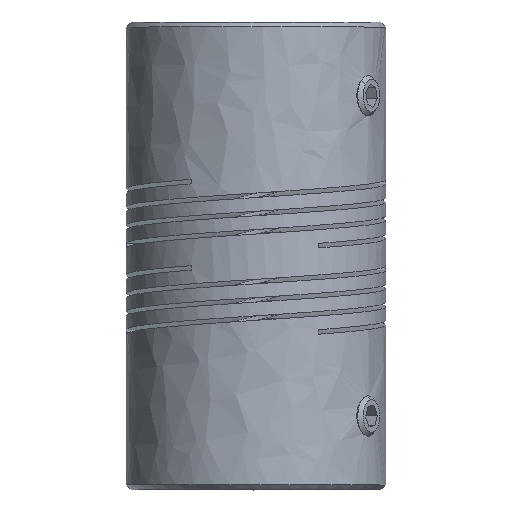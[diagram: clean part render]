
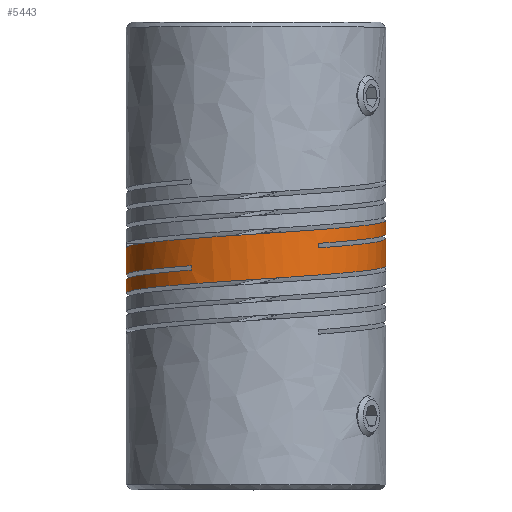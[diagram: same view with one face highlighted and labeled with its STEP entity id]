
A CAD part, top view. The second image highlights one B-rep face of the part: STEP entity #5443.
In plain terms, the highlighted free-form (B-spline) face has degree [1, 3] with [2, 13] control points.
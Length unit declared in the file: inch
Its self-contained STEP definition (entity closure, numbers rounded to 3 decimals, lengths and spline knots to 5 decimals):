
#649=DIRECTION('',(0.,1.,0.));
#650=VECTOR('',#649,0.02165);
#651=CARTESIAN_POINT('',(-0.67862,-0.17203,
0.5983));
#652=LINE('',#651,#650);
#1106=DIRECTION('',(0.,-1.,0.));
#1107=VECTOR('',#1106,0.06614);
#1108=CARTESIAN_POINT('',(-0.99111,-0.21593,
0.05704));
#1109=LINE('',#1108,#1107);
#1224=CARTESIAN_POINT('',(-0.99112,-0.06396,
0.05703));
#1225=CARTESIAN_POINT('',(-0.99109,-0.05783,
0.14839));
#1226=CARTESIAN_POINT('',(-0.94951,-0.04528,
0.33543));
#1227=CARTESIAN_POINT('',(-0.76958,-0.02631,
0.56336));
#1228=CARTESIAN_POINT('',(-0.50321,-0.00705,
0.68977));
#1229=CARTESIAN_POINT('',(-0.20839,0.01221,
0.68495));
#1230=CARTESIAN_POINT('',(0.0537,0.03147,
0.54988));
#1231=CARTESIAN_POINT('',(0.22192,0.04998,
0.32184));
#1232=CARTESIAN_POINT('',(0.25884,0.06207,
0.14156));
#1233=CARTESIAN_POINT('',(0.25889,0.06774,
0.05703));
#1235=CARTESIAN_POINT('',(0.25888,0.00159,
0.05703));
#1236=CARTESIAN_POINT('',(0.2589,-0.00049,
0.08813));
#1237=CARTESIAN_POINT('',(0.24954,-0.009,
0.21494));
#1238=CARTESIAN_POINT('',(0.16503,-0.02392,
0.42723));
#1239=CARTESIAN_POINT('',(0.01886,-0.03676,
0.55861));
#1240=CARTESIAN_POINT('',(-0.06502,-0.04318,
0.60472));
#1242=CARTESIAN_POINT('',(-0.06502,-0.06483,
0.60472));
#1243=CARTESIAN_POINT('',(0.01886,-0.05841,
0.55861));
#1244=CARTESIAN_POINT('',(0.16503,-0.04557,
0.42723));
#1245=CARTESIAN_POINT('',(0.24954,-0.03065,
0.21494));
#1246=CARTESIAN_POINT('',(0.2589,-0.02214,
0.08813));
#1247=CARTESIAN_POINT('',(0.25888,-0.02006,
0.05703));
#1249=CARTESIAN_POINT('',(0.25888,-0.15037,
0.05703));
#1250=CARTESIAN_POINT('',(0.25888,-0.15679,
0.15275));
#1251=CARTESIAN_POINT('',(0.21417,-0.16963,
0.34413));
#1252=CARTESIAN_POINT('',(0.02665,-0.18889,
0.5717));
#1253=CARTESIAN_POINT('',(-0.2423,-0.20815,
0.6925));
#1254=CARTESIAN_POINT('',(-0.53696,-0.22741,
0.68151));
#1255=CARTESIAN_POINT('',(-0.79616,-0.24667,
0.54098));
#1256=CARTESIAN_POINT('',(-0.95699,-0.26489,
0.31312));
#1257=CARTESIAN_POINT('',(-0.99106,-0.27669,
0.1372));
#1258=CARTESIAN_POINT('',(-0.99112,-0.28207,
0.05703));
#1260=CARTESIAN_POINT('',(-0.99111,-0.21593,
0.05704));
#1261=CARTESIAN_POINT('',(-0.99113,-0.21413,
0.08376));
#1262=CARTESIAN_POINT('',(-0.98338,-0.20592,
0.20621));
#1263=CARTESIAN_POINT('',(-0.90489,-0.19129,
0.41602));
#1264=CARTESIAN_POINT('',(-0.76151,-0.17845,
0.55044));
#1265=CARTESIAN_POINT('',(-0.67862,-0.17203,
0.5983));
#1267=CARTESIAN_POINT('',(-0.67862,-0.15037,
0.5983));
#1268=CARTESIAN_POINT('',(-0.76151,-0.15679,
0.55044));
#1269=CARTESIAN_POINT('',(-0.90489,-0.16963,
0.41602));
#1270=CARTESIAN_POINT('',(-0.98338,-0.18427,
0.20621));
#1271=CARTESIAN_POINT('',(-0.99113,-0.19248,
0.08376));
#1272=CARTESIAN_POINT('',(-0.99111,-0.19427,
0.05704));
#1348=DIRECTION('',(0.,-1.,0.));
#1349=VECTOR('',#1348,0.06614);
#1350=CARTESIAN_POINT('',(0.25889,0.06774,
0.05703));
#1351=LINE('',#1350,#1349);
#1356=DIRECTION('',(0.,-1.,0.));
#1357=VECTOR('',#1356,0.13032);
#1358=CARTESIAN_POINT('',(0.25888,-0.02006,
0.05703));
#1359=LINE('',#1358,#1357);
#1408=DIRECTION('',(0.,-1.,0.));
#1409=VECTOR('',#1408,0.13032);
#1410=CARTESIAN_POINT('',(-0.99112,-0.06396,
0.05703));
#1411=LINE('',#1410,#1409);
#1774=DIRECTION('',(0.,-1.,0.));
#1775=VECTOR('',#1774,0.02165);
#1776=CARTESIAN_POINT('',(-0.06502,-0.04318,
0.60472));
#1777=LINE('',#1776,#1775);
#3719=CARTESIAN_POINT('',(-0.67862,-0.17203,
0.5983));
#3721=VERTEX_POINT('',#3719);
#3774=CARTESIAN_POINT('',(-0.06502,-0.06483,
0.60472));
#3776=VERTEX_POINT('',#3774);
#3782=CARTESIAN_POINT('',(-0.06502,-0.04318,
0.60472));
#3784=VERTEX_POINT('',#3782);
#3786=CARTESIAN_POINT('',(-0.67862,-0.15037,
0.5983));
#3788=VERTEX_POINT('',#3786);
#3794=CARTESIAN_POINT('',(0.25888,-0.15037,
0.05703));
#3796=VERTEX_POINT('',#3794);
#3835=CARTESIAN_POINT('',(0.25889,0.06774,
0.05703));
#3836=CARTESIAN_POINT('',(0.25888,0.00159,
0.05703));
#3837=VERTEX_POINT('',#3835);
#3838=VERTEX_POINT('',#3836);
#3839=CARTESIAN_POINT('',(-0.99112,-0.06396,
0.05703));
#3840=CARTESIAN_POINT('',(-0.99111,-0.19427,
0.05704));
#3841=VERTEX_POINT('',#3839);
#3842=VERTEX_POINT('',#3840);
#3847=VERTEX_POINT('',#1247);
#3848=VERTEX_POINT('',#1258);
#3849=VERTEX_POINT('',#1260);
#5396=CARTESIAN_POINT('',(-0.99112,0.99844,
0.05703));
#5397=CARTESIAN_POINT('',(-0.99112,0.99844,
0.42315));
#5398=CARTESIAN_POINT('',(-0.73223,0.99844,
0.68203));
#5399=CARTESIAN_POINT('',(-0.36612,0.99844,
0.68203));
#5400=CARTESIAN_POINT('',(0.,0.99844,
0.68203));
#5401=CARTESIAN_POINT('',(0.25888,0.99844,
0.42315));
#5402=CARTESIAN_POINT('',(0.25888,0.99844,
0.05703));
#5403=CARTESIAN_POINT('',(0.25888,0.99844,
-0.30908));
#5404=CARTESIAN_POINT('',(0.,0.99844,
-0.56797));
#5405=CARTESIAN_POINT('',(-0.36612,0.99844,
-0.56797));
#5406=CARTESIAN_POINT('',(-0.73223,0.99844,
-0.56797));
#5407=CARTESIAN_POINT('',(-0.99112,0.99844,
-0.30908));
#5408=CARTESIAN_POINT('',(-0.99112,0.99844,
0.05703));
#5409=CARTESIAN_POINT('',(-0.99112,-1.20431,
0.05703));
#5410=CARTESIAN_POINT('',(-0.99112,-1.20431,
0.42315));
#5411=CARTESIAN_POINT('',(-0.73223,-1.20431,
0.68203));
#5412=CARTESIAN_POINT('',(-0.36612,-1.20431,
0.68203));
#5413=CARTESIAN_POINT('',(0.,-1.20431,
0.68203));
#5414=CARTESIAN_POINT('',(0.25888,-1.20431,
0.42315));
#5415=CARTESIAN_POINT('',(0.25888,-1.20431,
0.05703));
#5416=CARTESIAN_POINT('',(0.25888,-1.20431,
-0.30908));
#5417=CARTESIAN_POINT('',(0.,-1.20431,
-0.56797));
#5418=CARTESIAN_POINT('',(-0.36612,-1.20431,
-0.56797));
#5419=CARTESIAN_POINT('',(-0.73223,-1.20431,
-0.56797));
#5420=CARTESIAN_POINT('',(-0.99112,-1.20431,
-0.30908));
#5421=CARTESIAN_POINT('',(-0.99112,-1.20431,
0.05703));
#5422=(BOUNDED_SURFACE()B_SPLINE_SURFACE(1,3,((#5396,#5397,#5398,#5399,#5400,
#5401,#5402,#5403,#5404,#5405,#5406,#5407,#5408),(#5409,#5410,#5411,#5412,#5413,
#5414,#5415,#5416,#5417,#5418,#5419,#5420,#5421)),.UNSPECIFIED.,.F.,.T.,.F.)B_SPLINE_SURFACE_WITH_KNOTS((2,2),(4,3,3,3,4),(0.0378,3.5622),(
-3.14159,-1.5708,0.,1.5708,3.14159),
.UNSPECIFIED.)GEOMETRIC_REPRESENTATION_ITEM()RATIONAL_B_SPLINE_SURFACE(((1.,
0.805,0.805,1.,0.805,0.805,
1.,0.805,0.805,1.,0.805,
0.805,1.),(1.,0.805,0.805,1.,
0.805,0.805,1.,0.805,0.805,
1.,0.805,0.805,1.)))REPRESENTATION_ITEM('')SURFACE(
));
#5423=ORIENTED_EDGE('',*,*,#4485,.T.);
#5425=ORIENTED_EDGE('',*,*,#5424,.T.);
#5426=ORIENTED_EDGE('',*,*,#4622,.T.);
#5428=ORIENTED_EDGE('',*,*,#5427,.T.);
#5430=ORIENTED_EDGE('',*,*,#5429,.T.);
#5432=ORIENTED_EDGE('',*,*,#5431,.T.);
#5434=ORIENTED_EDGE('',*,*,#5433,.T.);
#5435=ORIENTED_EDGE('',*,*,#5333,.F.);
#5436=ORIENTED_EDGE('',*,*,#4838,.T.);
#5437=ORIENTED_EDGE('',*,*,#4877,.T.);
#5438=ORIENTED_EDGE('',*,*,#4970,.T.);
#5440=ORIENTED_EDGE('',*,*,#5439,.F.);
#5441=EDGE_LOOP('',(#5423,#5425,#5426,#5428,#5430,#5432,#5434,#5435,#5436,#5437,
#5438,#5440));
#5442=FACE_OUTER_BOUND('',#5441,.F.);
#1234=B_SPLINE_CURVE_WITH_KNOTS('',3,(#1224,#1225,#1226,#1227,#1228,#1229,#1230,
#1231,#1232,#1233),.UNSPECIFIED.,.F.,.F.,(4,1,1,1,1,1,1,4),(0.,
0.13958,0.28583,0.43209,0.57834,
0.72459,0.87084,1.),.UNSPECIFIED.);
#1241=B_SPLINE_CURVE_WITH_KNOTS('',3,(#1235,#1236,#1237,#1238,#1239,#1240),
.UNSPECIFIED.,.F.,.F.,(4,1,1,4),(0.,0.13971,0.56986,1.),
.UNSPECIFIED.);
#1248=B_SPLINE_CURVE_WITH_KNOTS('',3,(#1242,#1243,#1244,#1245,#1246,#1247),
.UNSPECIFIED.,.F.,.F.,(4,1,1,4),(0.,0.43014,0.86029,1.),
.UNSPECIFIED.);
#1259=B_SPLINE_CURVE_WITH_KNOTS('',3,(#1249,#1250,#1251,#1252,#1253,#1254,#1255,
#1256,#1257,#1258),.UNSPECIFIED.,.F.,.F.,(4,1,1,1,1,1,1,4),(0.,0.14625,
0.2925,0.43875,0.585,0.73125,0.8775,1.),.UNSPECIFIED.);
#1266=B_SPLINE_CURVE_WITH_KNOTS('',3,(#1260,#1261,#1262,#1263,#1264,#1265),
.UNSPECIFIED.,.F.,.F.,(4,1,1,4),(0.,0.1225,0.56125,1.),.UNSPECIFIED.);
#1273=B_SPLINE_CURVE_WITH_KNOTS('',3,(#1267,#1268,#1269,#1270,#1271,#1272),
.UNSPECIFIED.,.F.,.F.,(4,1,1,4),(0.,0.43875,0.8775,1.),.UNSPECIFIED.);
#4485=EDGE_CURVE('',#3841,#3837,#1234,.T.);
#4622=EDGE_CURVE('',#3838,#3784,#1241,.T.);
#4838=EDGE_CURVE('',#3849,#3721,#1266,.T.);
#4877=EDGE_CURVE('',#3721,#3788,#652,.T.);
#4970=EDGE_CURVE('',#3788,#3842,#1273,.T.);
#5333=EDGE_CURVE('',#3849,#3848,#1109,.T.);
#5424=EDGE_CURVE('',#3837,#3838,#1351,.T.);
#5427=EDGE_CURVE('',#3784,#3776,#1777,.T.);
#5429=EDGE_CURVE('',#3776,#3847,#1248,.T.);
#5431=EDGE_CURVE('',#3847,#3796,#1359,.T.);
#5433=EDGE_CURVE('',#3796,#3848,#1259,.T.);
#5439=EDGE_CURVE('',#3841,#3842,#1411,.T.);
#5443=ADVANCED_FACE('',(#5442),#5422,.T.);
